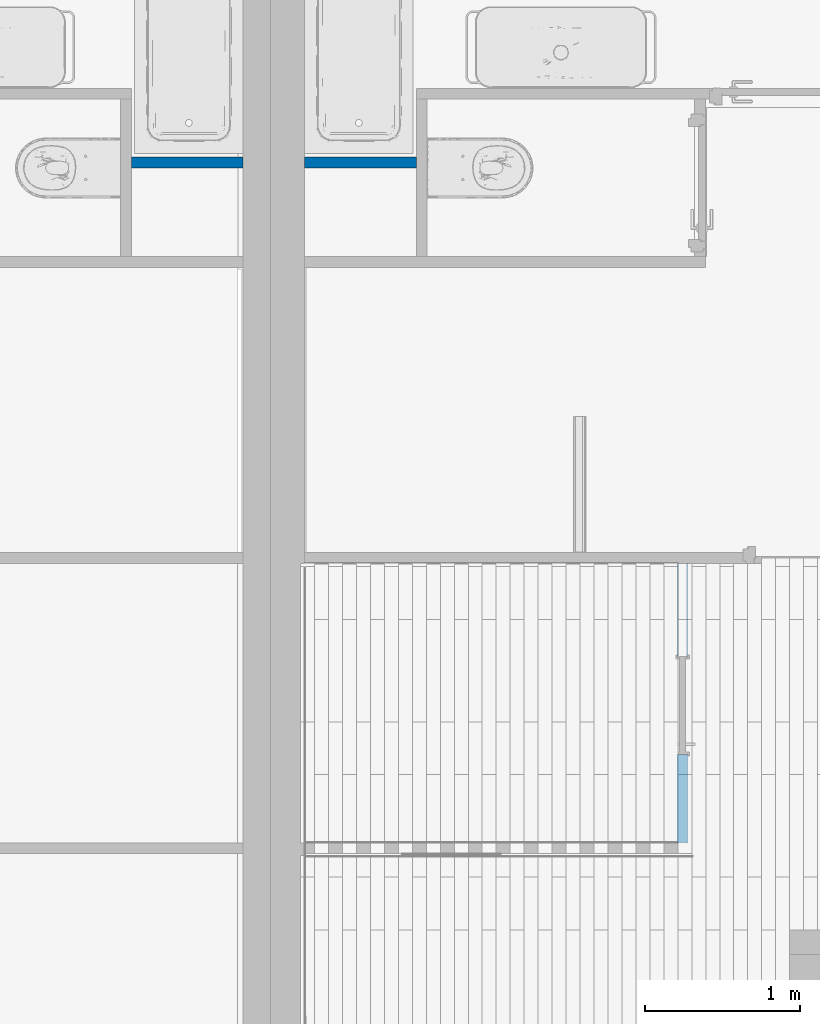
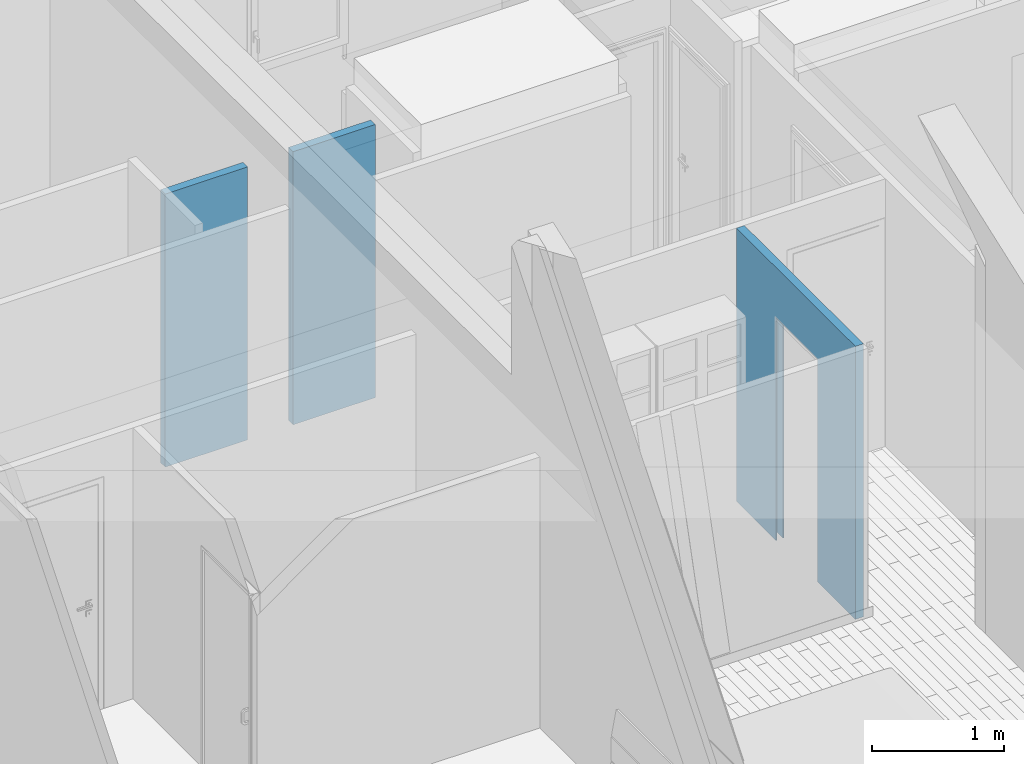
# One storey, part 38 of 61: 3 walls, 1 opening.
"""IFC2X3 building model written with IfcOpenShell, lengths in metres."""

from ifc_helpers import new_model, entity, si_unit, converted_unit, derived_unit, direction, frame, frame_2d, origin, place, context, subcontext, project, spatial, rectangle, extrude, faceted_brep, material, layer, layer_set, layer_usage, type_object, element, save


model = new_model("IFC2X3")

# Units and contexts
model_context = context("Model", 3, precision=1e-05, world=origin(), true_north=direction((6.12303176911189e-17, 1.0)))
body_context = subcontext(model_context, "Body", "Model", "MODEL_VIEW")
ifc_project = project(units=[si_unit("LENGTHUNIT", "METRE"), si_unit("AREAUNIT", "SQUARE_METRE"), si_unit("VOLUMEUNIT", "CUBIC_METRE"), converted_unit("PLANEANGLEUNIT", "DEGREE", entity("IfcRatioMeasure", 0.0174532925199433), si_unit("PLANEANGLEUNIT", "RADIAN"), dimensions=[0, 0, 0, 0, 0, 0, 0]), si_unit("MASSUNIT", "GRAM", prefix="KILO"), derived_unit("MASSDENSITYUNIT", [(si_unit("MASSUNIT", "GRAM", prefix="KILO"), 1), (si_unit("LENGTHUNIT", "METRE"), -3)]), si_unit("TIMEUNIT", "SECOND"), si_unit("FREQUENCYUNIT", "HERTZ"), si_unit("THERMODYNAMICTEMPERATUREUNIT", "DEGREE_CELSIUS"), derived_unit("THERMALTRANSMITTANCEUNIT", [(si_unit("MASSUNIT", "GRAM", prefix="KILO"), 1), (si_unit("THERMODYNAMICTEMPERATUREUNIT", "KELVIN"), -1), (si_unit("TIMEUNIT", "SECOND"), -3)]), derived_unit("VOLUMETRICFLOWRATEUNIT", [(si_unit("LENGTHUNIT", "METRE"), 3), (si_unit("TIMEUNIT", "SECOND"), -1)]), si_unit("ELECTRICCURRENTUNIT", "AMPERE"), si_unit("ELECTRICVOLTAGEUNIT", "VOLT"), si_unit("POWERUNIT", "WATT"), si_unit("FORCEUNIT", "NEWTON", prefix="KILO"), si_unit("ILLUMINANCEUNIT", "LUX"), si_unit("LUMINOUSFLUXUNIT", "LUMEN"), si_unit("LUMINOUSINTENSITYUNIT", "CANDELA"), derived_unit("USERDEFINED", [(si_unit("MASSUNIT", "GRAM", prefix="KILO"), -1), (si_unit("LENGTHUNIT", "METRE"), -2), (si_unit("TIMEUNIT", "SECOND"), 3), (si_unit("LUMINOUSFLUXUNIT", "LUMEN"), 1)]), derived_unit("LINEARVELOCITYUNIT", [(si_unit("LENGTHUNIT", "METRE"), 1), (si_unit("TIMEUNIT", "SECOND"), -1)]), si_unit("PRESSUREUNIT", "PASCAL"), derived_unit("USERDEFINED", [(si_unit("LENGTHUNIT", "METRE"), -2), (si_unit("MASSUNIT", "GRAM", prefix="KILO"), 1), (si_unit("TIMEUNIT", "SECOND"), -2)])], contexts=[model_context])

# Site, building, storey
site_placement = place(None, origin())
site = spatial("IfcSite", under=ifc_project, at=site_placement, Name="Surface", CompositionType="ELEMENT")
building_placement = place(site_placement, origin())
building = spatial("IfcBuilding", under=site, at=building_placement, CompositionType="ELEMENT")
storey_placement = place(building_placement, frame((0.0, 0.0, 2.82)))
storey = spatial("IfcBuildingStorey", under=building, at=storey_placement, Name="ETAGE", CompositionType="ELEMENT", Elevation=2.82)

# Wall, opening
ifc_material = material(Name="Peinture - Blanc")
ifc_layer = layer(ifc_material, 0.07)
ifc_layer_set = layer_set([ifc_layer], Name="Mur de base:Int.  Platre 70 mm en blanc")
ifc_layer_usage_1 = layer_usage(ifc_layer_set, "AXIS2", "NEGATIVE", 0.035)
wall_type = type_object("IfcWallType", Name="Mur de base:Int.  Platre 70 mm en blanc", PredefinedType="STANDARD", material=ifc_layer_set)
wall_1_placement = place(storey_placement, frame((86.3617857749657, 86.6075239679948, 0.0), z_axis=(0.0, 0.0, 1.0), x_axis=(0.0, -1.0, 0.0)))
wall_1 = element("IfcWallStandardCase", 1, at=wall_1_placement, inside=storey, type_object=wall_type, material=ifc_layer_usage_1, Name="Mur de base:Int.  Platre 70 mm en blanc", ObjectType="Mur de base:Int.  Platre 70 mm en blanc", context=body_context, shape_type="SweptSolid", body=[
    extrude(rectangle(XDim=1.80000000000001, YDim=0.0699999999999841, at=frame_2d((0.900000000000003, 0.0), x_axis=(-1.0, 0.0))), origin(), (0.0, 0.0, 1.0), 2.52),
])
opening_placement = place(wall_1_placement, frame((1.22999999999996, -0.185000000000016, 0.0), z_axis=(0.0, 0.0, 1.0), x_axis=(0.0, 1.0, 0.0)))
element("IfcOpeningElement", 2, at=opening_placement, cuts=wall_1, Name="Mur de base:Int.  Platre 70 mm en blanc", ObjectType="Opening", context=body_context, shape_type="Brep", body=[
    faceted_brep([(0.370000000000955, 0.0, 2.055), (0.0, 0.0, 2.055), (0.0, 0.0, 0.0), (0.370000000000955, 0.0, 0.0), (0.370000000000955, 0.629999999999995, 2.055), (0.370000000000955, 0.629999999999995, 0.0), (0.210000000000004, 0.629999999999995, 2.055), (0.210000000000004, 0.629999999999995, 0.0), (0.210000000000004, 1.23, 2.055), (0.210000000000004, 1.23, 0.0), (0.159999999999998, 1.23, 2.055), (0.159999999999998, 1.23, 0.0), (0.159999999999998, 0.629999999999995, 2.055), (0.159999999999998, 0.629999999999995, 0.0), (0.0, 0.629999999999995, 2.055), (0.0, 0.629999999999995, 0.0)], [[[0, 1, 2, 3]], [[4, 0, 3, 5]], [[6, 4, 5, 7]], [[8, 6, 7, 9]], [[10, 8, 9, 11]], [[12, 10, 11, 13]], [[14, 1, 0, 4, 6, 8, 10, 12]], [[15, 13, 11, 9, 7, 5, 3, 2]], [[1, 14, 15, 2]], [[14, 12, 13, 15]]]),
])

# Walls
ifc_layer_usage_2 = layer_usage(ifc_layer_set, "AXIS2", "POSITIVE", -0.035)
wall_2_placement = place(storey_placement, frame((83.5314023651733, 89.1892045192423, 0.0), z_axis=(0.0, 0.0, 1.0), x_axis=(-1.0, 0.0, 0.0)))
element("IfcWallStandardCase", 3, at=wall_2_placement, inside=storey, type_object=wall_type, material=ifc_layer_usage_2, Name="Mur de base:Int.  Platre 70 mm en blanc", ObjectType="Mur de base:Int.  Platre 70 mm en blanc", context=body_context, shape_type="SweptSolid", body=[
    extrude(rectangle(XDim=0.720383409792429, YDim=0.0699999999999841, at=frame_2d((0.360191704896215, 0.0), x_axis=(-1.0, 0.0))), origin(), (0.0, 0.0, 1.0), 2.52),
])
ifc_layer_usage_3 = layer_usage(ifc_layer_set, "AXIS2", "NEGATIVE", 0.035)
wall_3_placement = place(storey_placement, frame((83.9264023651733, 89.1892045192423, 0.0)))
element("IfcWallStandardCase", 4, at=wall_3_placement, inside=storey, type_object=wall_type, material=ifc_layer_usage_3, Name="Mur de base:Int.  Platre 70 mm en blanc", ObjectType="Mur de base:Int.  Platre 70 mm en blanc", context=body_context, shape_type="SweptSolid", body=[
    extrude(rectangle(XDim=0.720383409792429, YDim=0.0699999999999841, at=frame_2d((0.360191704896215, 0.0), x_axis=(-1.0, 0.0))), origin(), (0.0, 0.0, 1.0), 2.52),
])

save(model, "model.ifc")
